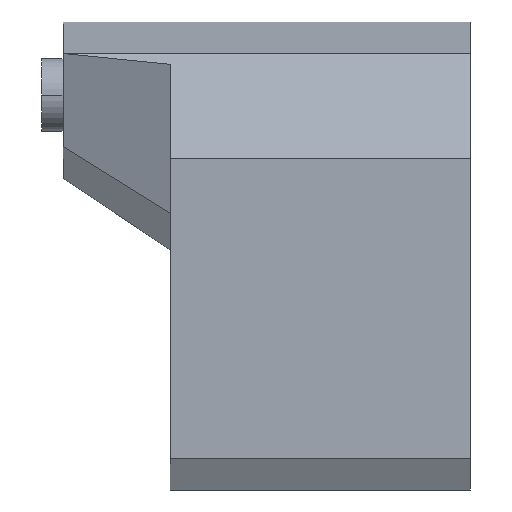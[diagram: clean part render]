
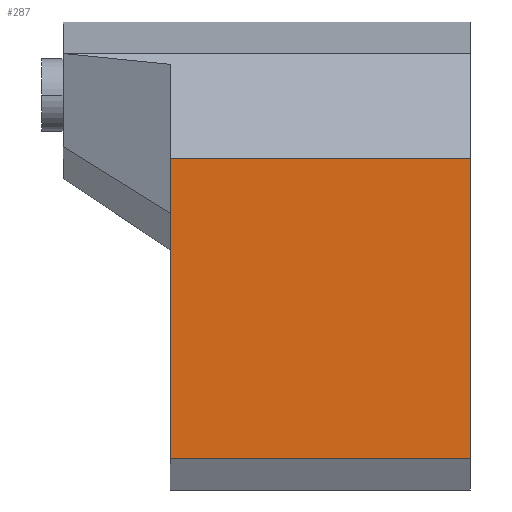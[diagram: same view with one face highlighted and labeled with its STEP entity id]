
A CAD part, front view. The second image highlights one B-rep face of the part: STEP entity #287.
In plain terms, the highlighted planar face has unit normal (0, -1, 0).
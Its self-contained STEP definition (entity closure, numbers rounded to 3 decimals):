
#167=CARTESIAN_POINT('Vertex',(2940.,-352.034,-147.913)) ;
#170=CARTESIAN_POINT('Line Origine',(2940.,-352.034,-497.913)) ;
#174=CARTESIAN_POINT('Vertex',(2940.,-352.034,-847.913)) ;
#257=CARTESIAN_POINT('Axis2P3D Location',(2240.,-352.034,-847.913)) ;
#262=CARTESIAN_POINT('Line Origine',(2590.,-352.034,-147.913)) ;
#266=CARTESIAN_POINT('Vertex',(2240.,-352.034,-147.913)) ;
#269=CARTESIAN_POINT('Line Origine',(2240.,-352.034,-497.913)) ;
#273=CARTESIAN_POINT('Vertex',(2240.,-352.034,-847.913)) ;
#276=CARTESIAN_POINT('Line Origine',(2590.,-352.034,-847.913)) ;
#171=DIRECTION('Vector Direction',(0.,0.,1.)) ;
#258=DIRECTION('Axis2P3D Direction',(0.,1.,0.)) ;
#259=DIRECTION('Axis2P3D XDirection',(0.,0.,1.)) ;
#263=DIRECTION('Vector Direction',(1.,0.,0.)) ;
#270=DIRECTION('Vector Direction',(0.,0.,1.)) ;
#277=DIRECTION('Vector Direction',(1.,0.,0.)) ;
#260=AXIS2_PLACEMENT_3D('Plane Axis2P3D',#257,#258,#259) ;
#282=ORIENTED_EDGE('',*,*,#176,.T.) ;
#283=ORIENTED_EDGE('',*,*,#268,.F.) ;
#284=ORIENTED_EDGE('',*,*,#275,.F.) ;
#285=ORIENTED_EDGE('',*,*,#280,.T.) ;
#172=VECTOR('Line Direction',#171,1.) ;
#264=VECTOR('Line Direction',#263,1.) ;
#271=VECTOR('Line Direction',#270,1.) ;
#278=VECTOR('Line Direction',#277,1.) ;
#287=ADVANCED_FACE('',(#286),#261,.F.) ;
#176=EDGE_CURVE('',#175,#168,#173,.T.) ;
#268=EDGE_CURVE('',#267,#168,#265,.T.) ;
#275=EDGE_CURVE('',#274,#267,#272,.T.) ;
#280=EDGE_CURVE('',#274,#175,#279,.T.) ;
#281=EDGE_LOOP('',(#282,#283,#284,#285)) ;
#286=FACE_OUTER_BOUND('',#281,.T.) ;
#173=LINE('Line',#170,#172) ;
#265=LINE('Line',#262,#264) ;
#272=LINE('Line',#269,#271) ;
#279=LINE('Line',#276,#278) ;
#261=PLANE('Plane',#260) ;
#168=VERTEX_POINT('',#167) ;
#175=VERTEX_POINT('',#174) ;
#267=VERTEX_POINT('',#266) ;
#274=VERTEX_POINT('',#273) ;
